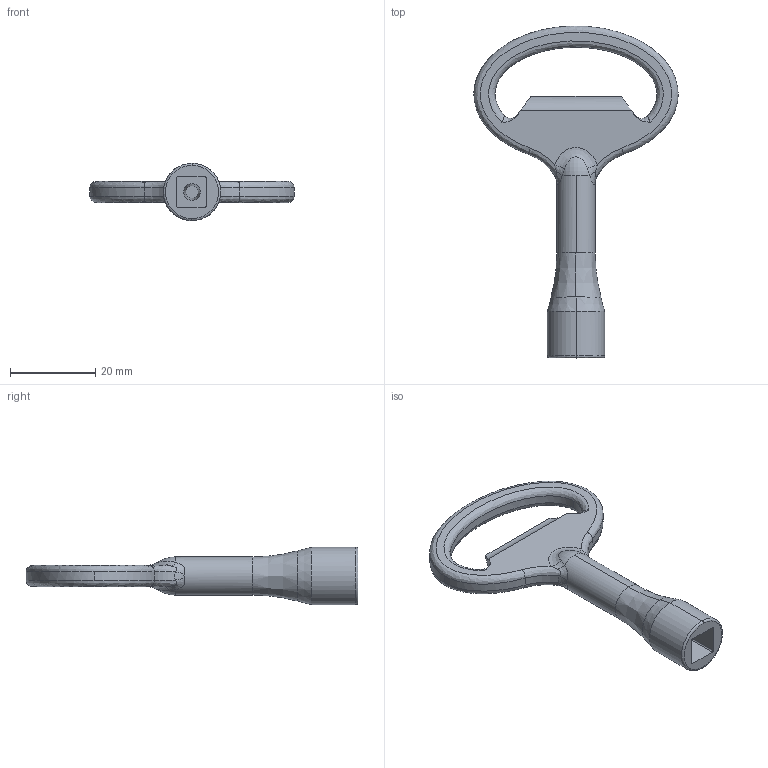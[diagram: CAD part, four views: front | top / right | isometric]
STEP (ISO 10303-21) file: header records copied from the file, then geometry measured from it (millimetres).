
FILE_DESCRIPTION (( 'STEP AP203' ), '1' );
FILE_NAME ('013.100.033.STEP', '2022-03-31T12:52:27', ( '' ), ( '' ), 'SwSTEP 2.0', 'SolidWorks 2021', '' );
FILE_SCHEMA (( 'CONFIG_CONTROL_DESIGN' ));
Length unit declared in the file: millimetre
Products named in the file (1): 013.100.033
Bounding box: 48 x 77.98 x 13.5 mm (x, y, z)
Volume: 7248.6 mm3; surface area: 4453.3 mm2
Topology: 1 solids, 1 shells, 68 faces, 170 edges, 106 vertices
Faces by surface type: bspline 34, cylinder 16, plane 12, cone 4, torus 2
Entity records: 4831 total; most frequent: CARTESIAN_POINT 3429, ORIENTED_EDGE 340, DIRECTION 194, EDGE_CURVE 170, VERTEX_POINT 106, AXIS2_PLACEMENT_3D 75, EDGE_LOOP 72, ADVANCED_FACE 68
